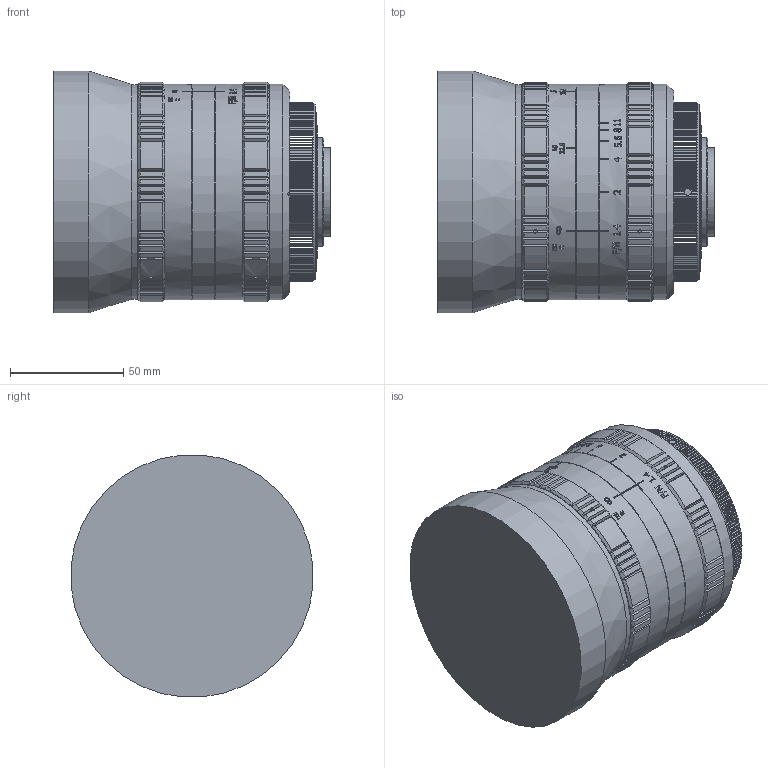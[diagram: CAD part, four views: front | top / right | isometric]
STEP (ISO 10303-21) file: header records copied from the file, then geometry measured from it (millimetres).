
FILE_DESCRIPTION((''),'2;1');
FILE_NAME('\\10.0.0.209\Doc Produ\Meccaniche\STP\A_2008\C0810\C0810_000\C0810_001.stp','2014-04-28T11:54:16',('mcilia'),(''),'Autodesk Inventor 2010','Autodesk Inventor 2010','');
FILE_SCHEMA(('AUTOMOTIVE_DESIGN { 1 0 10303 214 1 1 1 1 }'));
Length unit declared in the file: millimetre
Products named in the file (2): C0810_001_000 (Livello di dettaglio sostituto1); C0810_001
Assembly tree (1 placements, depth 2):
  C0810_001_000 (Livello di dettaglio sostituto1)
    C0810_001
Bounding box: 121.85 x 106.68 x 106.68 mm (x, y, z)
Surface area: 120838 mm2 (no closed solid volume)
Topology: 0 solids, 28 shells, 902 faces, 3376 edges, 2483 vertices
Faces by surface type: plane 537, cone 226, cylinder 127, bspline 11, sphere 1
Full cylindrical faces by diameter (mm): 39 x1, 48 x1, 95 x4, 107 x1
Entity records: 36572 total; most frequent: CARTESIAN_POINT 11075, ORIENTED_EDGE 4949, DIRECTION 4699, EDGE_CURVE 3341, VERTEX_POINT 2471, AXIS2_PLACEMENT_3D 1807, VECTOR 1085, LINE 1085
